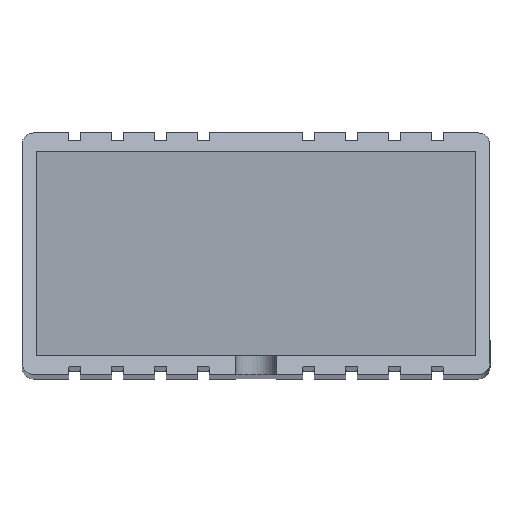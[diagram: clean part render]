
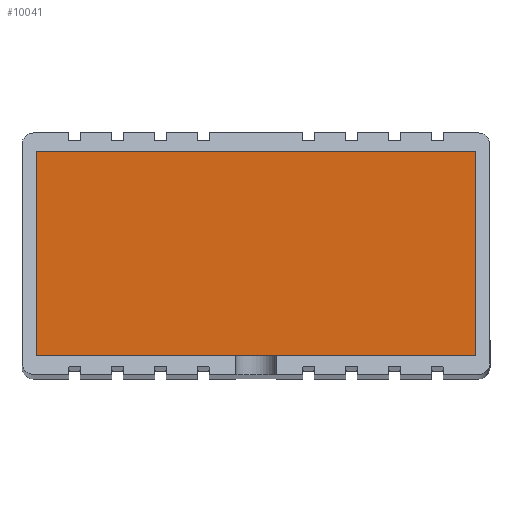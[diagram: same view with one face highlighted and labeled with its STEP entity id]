
A CAD part, top view. The second image highlights one B-rep face of the part: STEP entity #10041.
In plain terms, the highlighted planar face has unit normal (0, 0, 1).
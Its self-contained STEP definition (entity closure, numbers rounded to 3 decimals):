
#270=LINE($,#14185,#1205);
#271=LINE($,#14187,#1206);
#272=LINE($,#14189,#1207);
#273=LINE($,#14190,#1208);
#1205=VECTOR($,#11481,56.3);
#1206=VECTOR($,#11482,26.2);
#1207=VECTOR($,#11483,56.3);
#1208=VECTOR($,#11484,26.2);
#2139=PLANE($,#10575);
#2623=FACE_OUTER_BOUND($,#3122,.T.);
#3122=EDGE_LOOP($,(#6483,#6484,#6485,#6486));
#4114=VERTEX_POINT($,#14183);
#4115=VERTEX_POINT($,#14184);
#4116=VERTEX_POINT($,#14186);
#4117=VERTEX_POINT($,#14188);
#5054=EDGE_CURVE($,#4114,#4115,#270,.T.);
#5055=EDGE_CURVE($,#4116,#4114,#271,.T.);
#5056=EDGE_CURVE($,#4117,#4116,#272,.T.);
#5057=EDGE_CURVE($,#4115,#4117,#273,.T.);
#6483=ORIENTED_EDGE($,*,*,#5054,.F.);
#6484=ORIENTED_EDGE($,*,*,#5055,.F.);
#6485=ORIENTED_EDGE($,*,*,#5056,.F.);
#6486=ORIENTED_EDGE($,*,*,#5057,.F.);
#10041=ADVANCED_FACE($,(#2623),#2139,.F.);
#10575=AXIS2_PLACEMENT_3D($,#14182,#11479,#11480);
#11479=DIRECTION('center_axis',(0.,0.,
-1.));
#11480=DIRECTION('ref_axis',(-1.,0.,0.));
#11481=DIRECTION($,(-1.,0.,0.));
#11482=DIRECTION($,(0.,-1.,0.));
#11483=DIRECTION($,(1.,0.,0.));
#11484=DIRECTION($,(0.,1.,0.));
#14182=CARTESIAN_POINT('Origin',(-22.638,73.631,163.025));
#14183=CARTESIAN_POINT('',(5.512,60.531,163.025));
#14184=CARTESIAN_POINT('',(-50.788,60.531,163.025));
#14185=CARTESIAN_POINT($,(-36.713,60.531,163.025));
#14186=CARTESIAN_POINT('',(5.512,86.731,163.025));
#14187=CARTESIAN_POINT($,(5.512,67.081,163.025));
#14188=CARTESIAN_POINT('',(-50.788,86.731,163.025));
#14189=CARTESIAN_POINT($,(-8.563,86.731,163.025));
#14190=CARTESIAN_POINT($,(-50.788,80.181,163.025));
